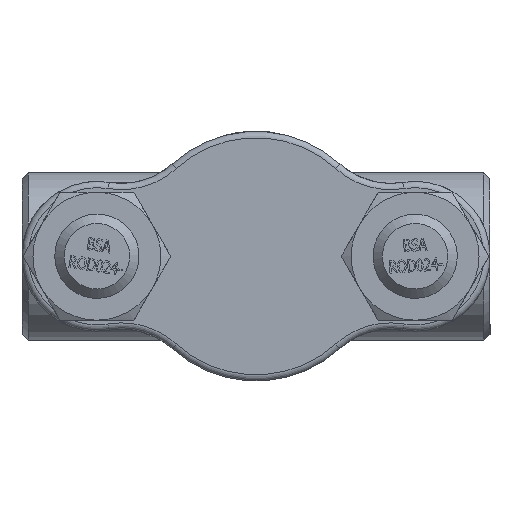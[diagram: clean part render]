
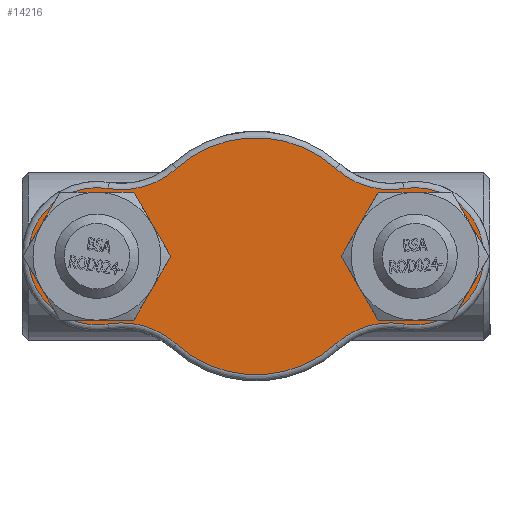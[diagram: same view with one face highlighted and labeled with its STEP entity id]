
A CAD part, front view. The second image highlights one B-rep face of the part: STEP entity #14216.
In plain terms, the highlighted planar face has unit normal (0, -1, 0) as drawn and (0, 0, -1) by its records, which use the part's own axes.
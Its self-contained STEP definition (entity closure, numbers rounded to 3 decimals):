
#3717=PLANE('',#15137);
#4137=FACE_BOUND('',#5064,.T.);
#4138=FACE_BOUND('',#5065,.T.);
#4231=FACE_OUTER_BOUND('',#5063,.T.);
#5063=EDGE_LOOP('',(#9819,#9820,#9821,#9822,#9823,#9824,#9825,#9826));
#5064=EDGE_LOOP('',(#9827));
#5065=EDGE_LOOP('',(#9828));
#5987=CIRCLE('',#15136,16.5);
#5988=CIRCLE('',#15138,22.);
#5989=CIRCLE('',#15139,26.);
#5990=CIRCLE('',#15140,38.);
#5991=CIRCLE('',#15141,26.);
#5992=CIRCLE('',#15142,22.);
#5993=CIRCLE('',#15143,26.);
#5994=CIRCLE('',#15144,38.);
#5995=CIRCLE('',#15145,26.);
#5996=CIRCLE('',#15146,16.5);
#6179=VERTEX_POINT('',#18650);
#6180=VERTEX_POINT('',#18653);
#6181=VERTEX_POINT('',#18654);
#6182=VERTEX_POINT('',#18656);
#6183=VERTEX_POINT('',#18658);
#6184=VERTEX_POINT('',#18660);
#6185=VERTEX_POINT('',#18662);
#6186=VERTEX_POINT('',#18664);
#6187=VERTEX_POINT('',#18666);
#6188=VERTEX_POINT('',#18669);
#7629=EDGE_CURVE('',#6179,#6179,#5987,.T.);
#7630=EDGE_CURVE('',#6180,#6181,#5988,.T.);
#7631=EDGE_CURVE('',#6182,#6180,#5989,.T.);
#7632=EDGE_CURVE('',#6183,#6182,#5990,.T.);
#7633=EDGE_CURVE('',#6184,#6183,#5991,.T.);
#7634=EDGE_CURVE('',#6185,#6184,#5992,.T.);
#7635=EDGE_CURVE('',#6186,#6185,#5993,.T.);
#7636=EDGE_CURVE('',#6187,#6186,#5994,.T.);
#7637=EDGE_CURVE('',#6181,#6187,#5995,.T.);
#7638=EDGE_CURVE('',#6188,#6188,#5996,.T.);
#9819=ORIENTED_EDGE('',*,*,#7630,.F.);
#9820=ORIENTED_EDGE('',*,*,#7631,.F.);
#9821=ORIENTED_EDGE('',*,*,#7632,.F.);
#9822=ORIENTED_EDGE('',*,*,#7633,.F.);
#9823=ORIENTED_EDGE('',*,*,#7634,.F.);
#9824=ORIENTED_EDGE('',*,*,#7635,.F.);
#9825=ORIENTED_EDGE('',*,*,#7636,.F.);
#9826=ORIENTED_EDGE('',*,*,#7637,.F.);
#9827=ORIENTED_EDGE('',*,*,#7638,.F.);
#9828=ORIENTED_EDGE('',*,*,#7629,.F.);
#14216=ADVANCED_FACE('',(#4231,#4137,#4138),#3717,.F.);
#15136=AXIS2_PLACEMENT_3D('',#18651,#15888,#15889);
#15137=AXIS2_PLACEMENT_3D('',#18652,#15890,#15891);
#15138=AXIS2_PLACEMENT_3D('',#18655,#15892,#15893);
#15139=AXIS2_PLACEMENT_3D('',#18657,#15894,#15895);
#15140=AXIS2_PLACEMENT_3D('',#18659,#15896,#15897);
#15141=AXIS2_PLACEMENT_3D('',#18661,#15898,#15899);
#15142=AXIS2_PLACEMENT_3D('',#18663,#15900,#15901);
#15143=AXIS2_PLACEMENT_3D('',#18665,#15902,#15903);
#15144=AXIS2_PLACEMENT_3D('',#18667,#15904,#15905);
#15145=AXIS2_PLACEMENT_3D('',#18668,#15906,#15907);
#15146=AXIS2_PLACEMENT_3D('',#18670,#15908,#15909);
#15888=DIRECTION('center_axis',(0.,0.,-1.));
#15889=DIRECTION('ref_axis',(1.,0.,0.));
#15890=DIRECTION('center_axis',(0.,0.,1.));
#15891=DIRECTION('ref_axis',(1.,0.,0.));
#15892=DIRECTION('center_axis',(0.,0.,1.));
#15893=DIRECTION('ref_axis',(-1.,0.,0.));
#15894=DIRECTION('center_axis',(0.,0.,-1.));
#15895=DIRECTION('ref_axis',(0.282,-0.959,0.));
#15896=DIRECTION('center_axis',(0.,0.,1.));
#15897=DIRECTION('ref_axis',(0.,1.,0.));
#15898=DIRECTION('center_axis',(0.,0.,-1.));
#15899=DIRECTION('ref_axis',(-0.282,-0.959,0.));
#15900=DIRECTION('center_axis',(0.,0.,1.));
#15901=DIRECTION('ref_axis',(1.,0.,0.));
#15902=DIRECTION('center_axis',(0.,0.,-1.));
#15903=DIRECTION('ref_axis',(-0.282,0.959,0.));
#15904=DIRECTION('center_axis',(0.,0.,1.));
#15905=DIRECTION('ref_axis',(0.,-1.,0.));
#15906=DIRECTION('center_axis',(0.,0.,-1.));
#15907=DIRECTION('ref_axis',(0.282,0.959,0.));
#15908=DIRECTION('center_axis',(0.,0.,-1.));
#15909=DIRECTION('ref_axis',(1.,0.,0.));
#18650=CARTESIAN_POINT('',(34.5,0.,0.));
#18651=CARTESIAN_POINT('Origin',(51.,0.,0.));
#18652=CARTESIAN_POINT('Origin',(0.,0.,0.));
#18653=CARTESIAN_POINT('',(-47.365,21.698,0.));
#18654=CARTESIAN_POINT('',(-47.365,-21.698,0.));
#18655=CARTESIAN_POINT('Origin',(-51.,0.,0.));
#18656=CARTESIAN_POINT('',(-25.572,28.108,0.));
#18657=CARTESIAN_POINT('Origin',(-43.069,47.34,0.));
#18658=CARTESIAN_POINT('',(25.572,28.108,0.));
#18659=CARTESIAN_POINT('Origin',(0.,0.,0.));
#18660=CARTESIAN_POINT('',(47.365,21.698,0.));
#18661=CARTESIAN_POINT('Origin',(43.069,47.34,0.));
#18662=CARTESIAN_POINT('',(47.365,-21.698,0.));
#18663=CARTESIAN_POINT('Origin',(51.,0.,0.));
#18664=CARTESIAN_POINT('',(25.572,-28.108,0.));
#18665=CARTESIAN_POINT('Origin',(43.069,-47.34,0.));
#18666=CARTESIAN_POINT('',(-25.572,-28.108,0.));
#18667=CARTESIAN_POINT('Origin',(0.,0.,0.));
#18668=CARTESIAN_POINT('Origin',(-43.069,-47.34,0.));
#18669=CARTESIAN_POINT('',(-67.5,0.,0.));
#18670=CARTESIAN_POINT('Origin',(-51.,0.,0.));
